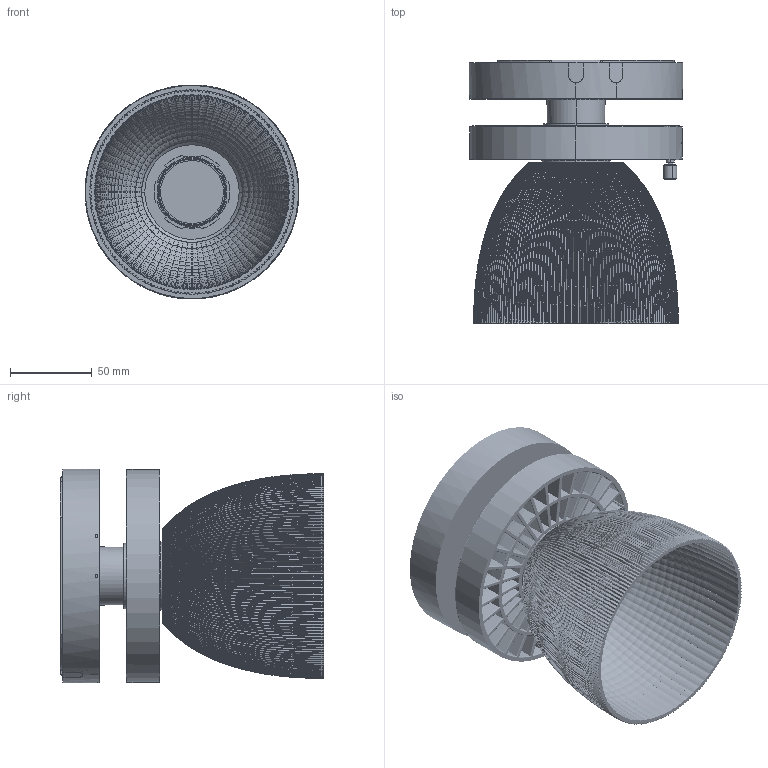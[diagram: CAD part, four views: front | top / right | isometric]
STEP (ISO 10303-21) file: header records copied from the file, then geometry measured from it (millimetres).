
FILE_DESCRIPTION(/* description */ (''),/* implementation_level */ '2;1');
FILE_NAME(/* name */ 'M0677A81 - CATA CEILING FIX - OPTIC 64°',/* time_stamp */ '2018-03-01T12:11:23+01:00',/* author */ (''),/* organization */ (''),/* preprocessor_version */ 'ST-DEVELOPER v15',/* originating_system */ '',/* authorisation */ '');
FILE_SCHEMA (('CONFIG_CONTROL_DESIGN'));
Products named in the file (1): Document
Bounding box: 130.47 x 160.51 x 130.48 mm (x, y, z)
Volume: 31278.6 mm3; surface area: 238486.3 mm2
Topology: 6 solids, 16 shells, 9251 faces, 20399 edges, 10840 vertices
Faces by surface type: bspline 8900, plane 351
Entity records: 434143 total; most frequent: CARTESIAN_POINT 326711, ORIENTED_EDGE 39461, EDGE_CURVE 20086, VERTEX_POINT 10799, EDGE_LOOP 9364, ADVANCED_FACE 9213, FACE_OUTER_BOUND 9213, B_SPLINE_CURVE_WITH_KNOTS 5797
